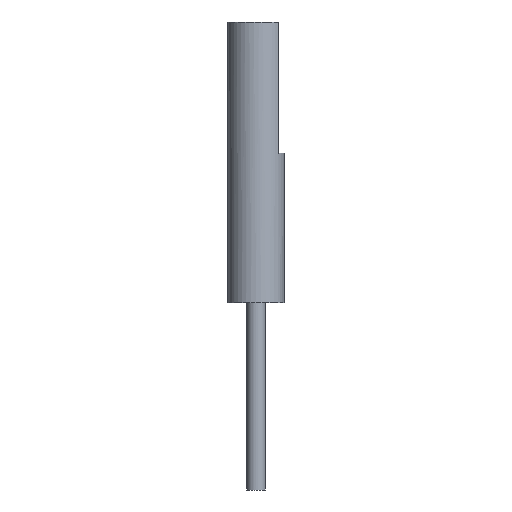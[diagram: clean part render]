
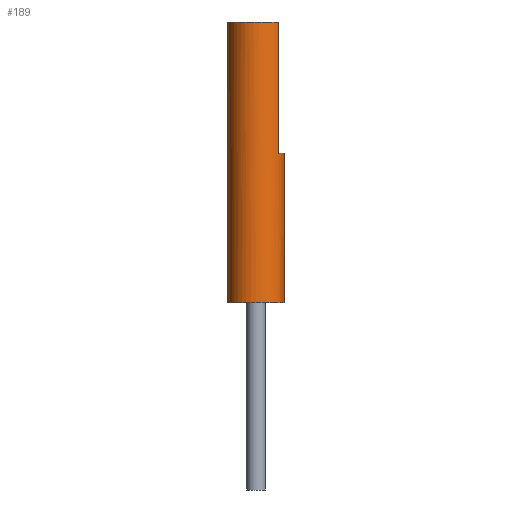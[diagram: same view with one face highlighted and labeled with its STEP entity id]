
A CAD part, front view. The second image highlights one B-rep face of the part: STEP entity #189.
In plain terms, the highlighted cylindrical face has radius 1.5 mm (diameter 3 mm), a partial arc.
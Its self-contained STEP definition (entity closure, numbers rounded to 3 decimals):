
#171 = ORIENTED_EDGE ( 'NONE', *, *, #172, .T. ) ;
#172 = EDGE_CURVE ( 'NONE', #186, #177, #774, .T. ) ;
#173 = EDGE_CURVE ( 'NONE', #177, #174, #677, .T. ) ;
#174 = VERTEX_POINT ( 'NONE', #685 ) ;
#175 = ORIENTED_EDGE ( 'NONE', *, *, #176, .T. ) ;
#176 = EDGE_CURVE ( 'NONE', #174, #226, #694, .T. ) ;
#177 = VERTEX_POINT ( 'NONE', #684 ) ;
#178 = ORIENTED_EDGE ( 'NONE', *, *, #187, .T. ) ;
#179 = ORIENTED_EDGE ( 'NONE', *, *, #173, .T. ) ;
#186 = VERTEX_POINT ( 'NONE', #696 ) ;
#187 = EDGE_CURVE ( 'NONE', #220, #186, #695, .T. ) ;
#189 = ADVANCED_FACE ( 'NONE', ( #708 ), #707, .T. ) ;
#190 = EDGE_LOOP ( 'NONE', ( #191, #192, #178, #171, #179, #175 ) ) ;
#191 = ORIENTED_EDGE ( 'NONE', *, *, #225, .F. ) ;
#192 = ORIENTED_EDGE ( 'NONE', *, *, #194, .F. ) ;
#194 = EDGE_CURVE ( 'NONE', #220, #211, #672, .T. ) ;
#211 = VERTEX_POINT ( 'NONE', #769 ) ;
#220 = VERTEX_POINT ( 'NONE', #751 ) ;
#225 = EDGE_CURVE ( 'NONE', #211, #226, #789, .T. ) ;
#226 = VERTEX_POINT ( 'NONE', #785 ) ;
#669 = DIRECTION ( 'NONE',  ( 0., 0., -1. ) ) ;
#670 = DIRECTION ( 'NONE',  ( 1., 0., 0. ) ) ;
#671 = AXIS2_PLACEMENT_3D ( 'NONE', #706, #670, #669 ) ;
#672 = CIRCLE ( 'NONE', #671, 1.5 ) ;
#677 = LINE ( 'NONE', #688, #687 ) ;
#678 = DIRECTION ( 'NONE',  ( 0., 0., -1. ) ) ;
#679 = DIRECTION ( 'NONE',  ( 1., 0., 0. ) ) ;
#680 = CARTESIAN_POINT ( 'NONE',  ( 7., 0., 0. ) ) ;
#681 = AXIS2_PLACEMENT_3D ( 'NONE', #680, #679, #678 ) ;
#684 = CARTESIAN_POINT ( 'NONE',  ( 7., -0.9, 1.2 ) ) ;
#685 = CARTESIAN_POINT ( 'NONE',  ( 0., -0.9, 1.2 ) ) ;
#686 = DIRECTION ( 'NONE',  ( -1., 0., 0. ) ) ;
#687 = VECTOR ( 'NONE', #686, 1000. ) ;
#688 = CARTESIAN_POINT ( 'NONE',  ( 7., -0.9, 1.2 ) ) ;
#690 = DIRECTION ( 'NONE',  ( 0., 0., -1. ) ) ;
#691 = DIRECTION ( 'NONE',  ( 1., 0., 0. ) ) ;
#692 = CARTESIAN_POINT ( 'NONE',  ( 0., 0., 0. ) ) ;
#693 = AXIS2_PLACEMENT_3D ( 'NONE', #692, #691, #690 ) ;
#694 = CIRCLE ( 'NONE', #693, 1.5 ) ;
#695 = LINE ( 'NONE', #711, #710 ) ;
#696 = CARTESIAN_POINT ( 'NONE',  ( 7., 0., 1.5 ) ) ;
#702 = DIRECTION ( 'NONE',  ( 0., 0., 1. ) ) ;
#703 = DIRECTION ( 'NONE',  ( -1., 0., 0. ) ) ;
#704 = CARTESIAN_POINT ( 'NONE',  ( 15., 0., 0. ) ) ;
#705 = AXIS2_PLACEMENT_3D ( 'NONE', #704, #703, #702 ) ;
#706 = CARTESIAN_POINT ( 'NONE',  ( 15., 0., 0. ) ) ;
#707 = CYLINDRICAL_SURFACE ( 'NONE', #705, 1.5 ) ;
#708 = FACE_OUTER_BOUND ( 'NONE', #190, .T. ) ;
#709 = DIRECTION ( 'NONE',  ( -1., 0., 0. ) ) ;
#710 = VECTOR ( 'NONE', #709, 1000. ) ;
#711 = CARTESIAN_POINT ( 'NONE',  ( 15., 0., 1.5 ) ) ;
#751 = CARTESIAN_POINT ( 'NONE',  ( 15., 0., 1.5 ) ) ;
#769 = CARTESIAN_POINT ( 'NONE',  ( 15., 0., -1.5 ) ) ;
#774 = CIRCLE ( 'NONE', #681, 1.5 ) ;
#785 = CARTESIAN_POINT ( 'NONE',  ( 0., 0., -1.5 ) ) ;
#786 = DIRECTION ( 'NONE',  ( -1., 0., 0. ) ) ;
#787 = VECTOR ( 'NONE', #786, 1000. ) ;
#788 = CARTESIAN_POINT ( 'NONE',  ( 15., 0., -1.5 ) ) ;
#789 = LINE ( 'NONE', #788, #787 ) ;
